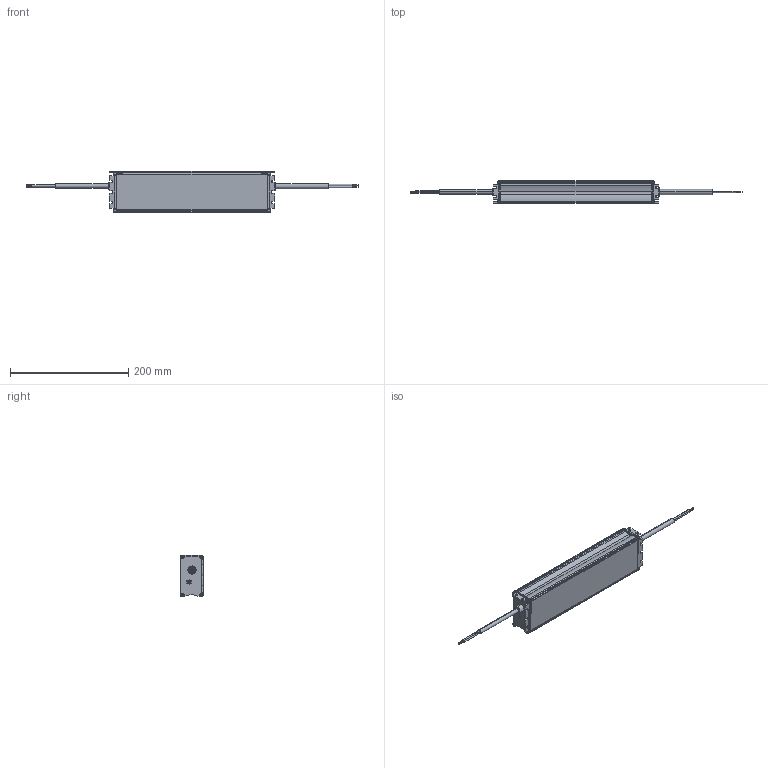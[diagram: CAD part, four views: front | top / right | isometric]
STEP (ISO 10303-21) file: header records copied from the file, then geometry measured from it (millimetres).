
FILE_DESCRIPTION((''),'2;1');
FILE_NAME('3D_JPVO-150012FA_ASM','2023-02-01T13:35:08',('ALBERT.LI'),(''),'CREO PARAMETRIC BY PTC INC, 2020454','CREO PARAMETRIC BY PTC INC, 2020454','');
FILE_SCHEMA(('CONFIG_CONTROL_DESIGN'));
Length unit declared in the file: millimetre
Products named in the file (13): HOUSING_16; SEALANT-INPUT_2; SEALANT-OUTPUT_4; BKT-INPUT_2; BKT-NUT_2; BRACKET-INPUT_ASM_1_ASM; BKT-OUTPUT_4; BRACKET-OUTPUT_ASM_3_ASM; CABLE_INPUT_1; CABLE_OUTPUT_1; T_SCREW_PAN-T3-14L-NI_1; JPVO-150012FA-EVT1_ASM_27_ASM; 3D_JPVO-150012FA_ASM
Assembly tree (20 placements, depth 4):
  3D_JPVO-150012FA_ASM
    JPVO-150012FA-EVT1_ASM_27_ASM
      HOUSING_16
      SEALANT-INPUT_2
      SEALANT-OUTPUT_4
      BRACKET-INPUT_ASM_1_ASM
        BKT-INPUT_2
        BKT-NUT_2
      BRACKET-OUTPUT_ASM_3_ASM
        BKT-OUTPUT_4
        BKT-NUT_2
      CABLE_INPUT_1
      CABLE_OUTPUT_1
      T_SCREW_PAN-T3-14L-NI_1  x8
Bounding box: 561.4 x 37.5 x 70 mm (x, y, z)
Volume: 143630.5 mm3; surface area: 150766.2 mm2
Topology: 17 solids, 17 shells, 1619 faces, 4554 edges, 3034 vertices
Faces by surface type: plane 1099, cylinder 232, cone 200, bspline 64, torus 24
Entity records: 40870 total; most frequent: CARTESIAN_POINT 9346, ORIENTED_EDGE 6682, DIRECTION 6195, EDGE_CURVE 3341, VECTOR 2803, LINE 2803, VERTEX_POINT 2223, AXIS2_PLACEMENT_3D 1696
